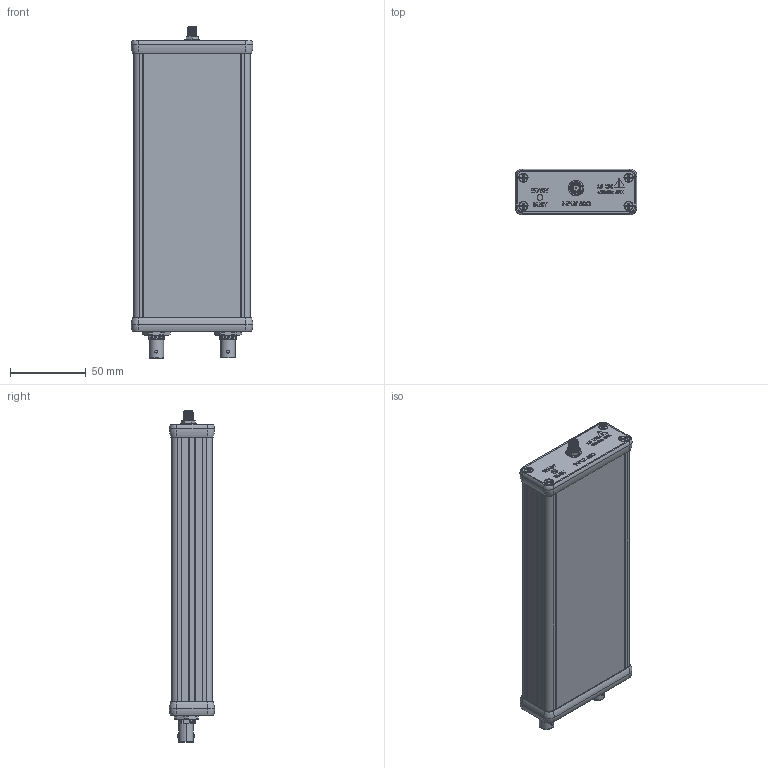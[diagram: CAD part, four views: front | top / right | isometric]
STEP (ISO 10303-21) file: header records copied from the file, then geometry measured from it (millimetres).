
FILE_DESCRIPTION (( 'STEP AP214' ), '1' );
FILE_NAME ('5146-9941_BB60C_defeature_artwork.STEP', '2023-02-15T23:16:42', ( '' ), ( '' ), 'SwSTEP 2.0', 'SolidWorks 2022', '' );
FILE_SCHEMA (( 'AUTOMOTIVE_DESIGN' ));
Length unit declared in the file: inch
Products named in the file (1): 5146-9941_BB60C_defeature_artwork
Bounding box: 80.72 x 29.96 x 219.68 mm (x, y, z)
Volume: 405565.6 mm3; surface area: 48457.4 mm2
Topology: 1 solids, 1 shells, 1711 faces, 5578 edges, 3953 vertices
Faces by surface type: plane 622, bspline 452, cylinder 417, cone 172, torus 48
Entity records: 120744 total; most frequent: CARTESIAN_POINT 55008, ORIENTED_EDGE 11144, DIRECTION 6640, EDGE_CURVE 5572, VERTEX_POINT 3953, AXIS2_PLACEMENT_3D 2237, VECTOR 2166, LINE 2166
